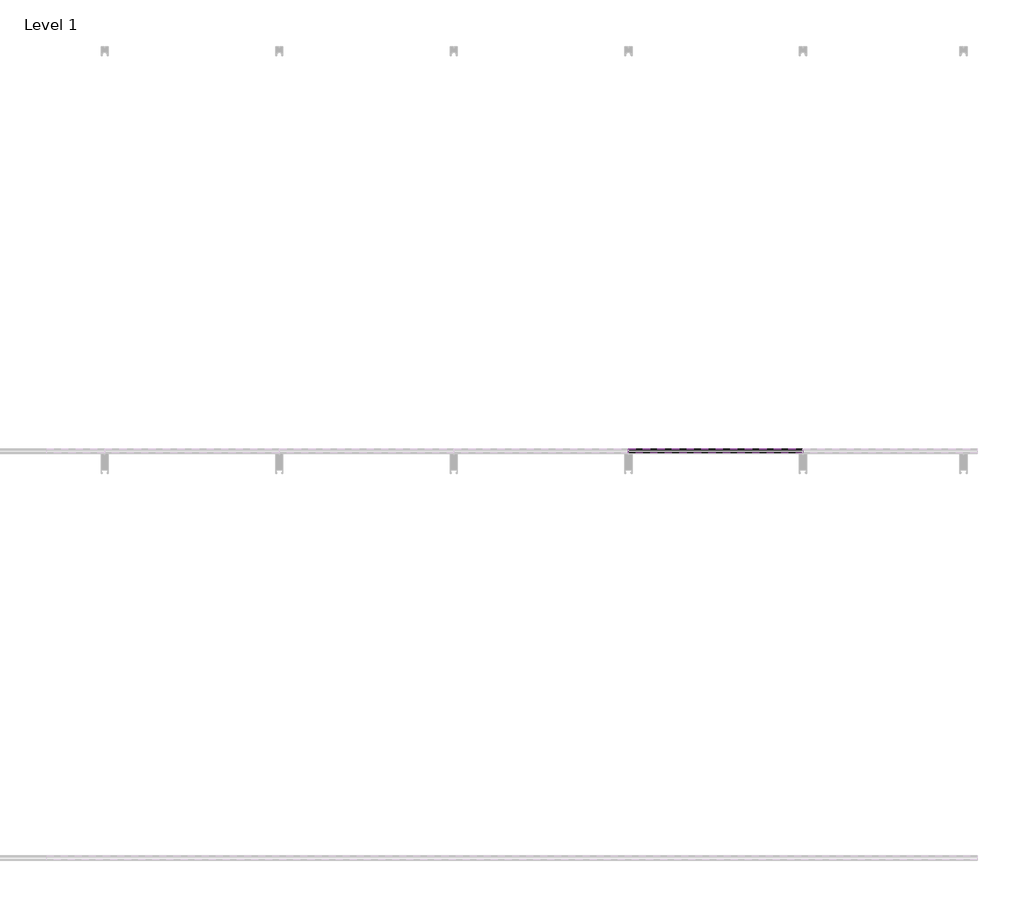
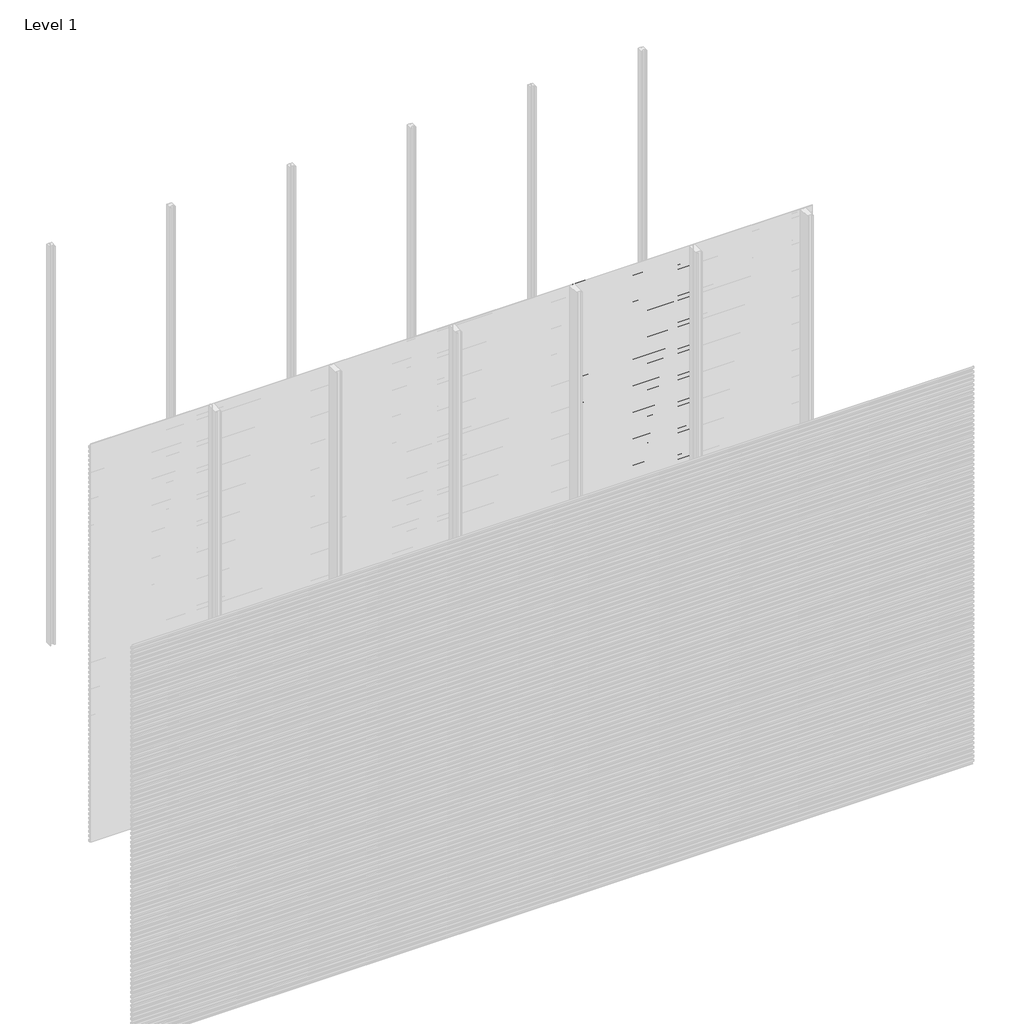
# One storey, part 67 of 96: 76 proxies.
"""IFC4 building model written with IfcOpenShell, lengths in millimetres."""

from ifc_helpers import new_model, si_unit, frame, origin, place, context, project, spatial, polyline, outline, extrude, element, save

model = new_model("IFC4")

# Units and contexts
model_context = context("Model", 3, world=origin())
ifc_project = project(units=[si_unit("LENGTHUNIT", "METRE", prefix="MILLI")], contexts=[model_context])

# Site, building, storey
site = spatial("IfcSite", under=ifc_project)
building = spatial("IfcBuilding", under=site)
storey = spatial("IfcBuildingStorey", under=building, Name="Level 1", Elevation=0.0)

# Proxies
placement = place(None, origin())
element("IfcBuildingElementProxy", 1, Name="Wall Sweeps", at=placement, inside=storey, context=model_context, shape_type="SweptSolid", body=[
    extrude(outline(polyline([(-17977.6, 107.9655033), (-17977.6, 93.6779188), (-17982.4114965, 90.9), (-17982.4114965, 92.1701706), (-17978.85, 94.2264016), (-17978.85, 107.2437382), (-17998.0, 118.3000799), (-17998.0, 133.2), (-17996.75, 133.2), (-17996.75, 119.0217609), (-17977.6, 107.9655033)])), frame((3428.5714286, 0.0, 0.0), z_axis=(1.0, 0.0, 0.0), x_axis=(0.0, 1.0, 0.0)), (0.0, 0.0, 1.0), 857.1428571),
])
element("IfcBuildingElementProxy", 2, Name="Wall Sweeps", at=placement, inside=storey, context=model_context, shape_type="SweptSolid", body=[
    extrude(outline(polyline([(-17977.6, 74.6655033), (-17977.6, 60.3779188), (-17982.4114965, 57.6), (-17982.4114965, 58.8701706), (-17978.85, 60.9264016), (-17978.85, 73.9437382), (-17998.0, 85.0000799), (-17998.0, 99.9), (-17996.75, 99.9), (-17996.75, 85.7217609), (-17977.6, 74.6655033)])), frame((3428.5714286, 0.0, 0.0), z_axis=(1.0, 0.0, 0.0), x_axis=(0.0, 1.0, 0.0)), (0.0, 0.0, 1.0), 857.1428571),
])
element("IfcBuildingElementProxy", 3, Name="Wall Sweeps", at=placement, inside=storey, context=model_context, shape_type="SweptSolid", body=[
    extrude(outline(polyline([(-17977.6, 41.3655033), (-17977.6, 27.0779188), (-17982.4114965, 24.3), (-17982.4114965, 25.5701706), (-17978.85, 27.6264016), (-17978.85, 40.6437382), (-17998.0, 51.7000799), (-17998.0, 66.6), (-17996.75, 66.6), (-17996.75, 52.4217609), (-17977.6, 41.3655033)])), frame((3428.5714286, 0.0, 0.0), z_axis=(1.0, 0.0, 0.0), x_axis=(0.0, 1.0, 0.0)), (0.0, 0.0, 1.0), 857.1428571),
])
element("IfcBuildingElementProxy", 4, Name="Wall Sweeps", at=placement, inside=storey, context=model_context, shape_type="SweptSolid", body=[
    extrude(outline(polyline([(-17977.6, 8.0655033), (-17977.6, -6.2220812), (-17982.4114965, -9.0), (-17982.4114965, -7.7298294), (-17978.85, -5.6735984), (-17978.85, 7.3437382), (-17998.0, 18.4000799), (-17998.0, 33.3), (-17996.75, 33.3), (-17996.75, 19.1217609), (-17977.6, 8.0655033)])), frame((3428.5714286, 0.0, 0.0), z_axis=(1.0, 0.0, 0.0), x_axis=(0.0, 1.0, 0.0)), (0.0, 0.0, 1.0), 857.1428571),
])
element("IfcBuildingElementProxy", 5, Name="Wall Sweeps", at=placement, inside=storey, context=model_context, shape_type="SweptSolid", body=[
    extrude(outline(polyline([(-17977.6, 2971.7655033), (-17977.6, 2957.4779188), (-17982.4114965, 2954.7), (-17982.4114965, 2955.9701706), (-17978.85, 2958.0264016), (-17978.85, 2971.0437382), (-17998.0, 2982.1000799), (-17998.0, 2997.0), (-17996.75, 2997.0), (-17996.75, 2982.8217609), (-17977.6, 2971.7655033)])), frame((4285.7142857, 0.0, 0.0), z_axis=(1.0, 0.0, 0.0), x_axis=(0.0, 1.0, 0.0)), (0.0, 0.0, 1.0), 857.1428571),
])
element("IfcBuildingElementProxy", 6, Name="Wall Sweeps", at=placement, inside=storey, context=model_context, shape_type="SweptSolid", body=[
    extrude(outline(polyline([(-17977.6, 2938.4655033), (-17977.6, 2924.1779188), (-17982.4114965, 2921.4), (-17982.4114965, 2922.6701706), (-17978.85, 2924.7264016), (-17978.85, 2937.7437382), (-17998.0, 2948.8000799), (-17998.0, 2963.7), (-17996.75, 2963.7), (-17996.75, 2949.5217609), (-17977.6, 2938.4655033)])), frame((4285.7142857, 0.0, 0.0), z_axis=(1.0, 0.0, 0.0), x_axis=(0.0, 1.0, 0.0)), (0.0, 0.0, 1.0), 857.1428571),
])
element("IfcBuildingElementProxy", 7, Name="Wall Sweeps", at=placement, inside=storey, context=model_context, shape_type="SweptSolid", body=[
    extrude(outline(polyline([(-17977.6, 2905.1655033), (-17977.6, 2890.8779188), (-17982.4114965, 2888.1), (-17982.4114965, 2889.3701706), (-17978.85, 2891.4264016), (-17978.85, 2904.4437382), (-17998.0, 2915.5000799), (-17998.0, 2930.4), (-17996.75, 2930.4), (-17996.75, 2916.2217609), (-17977.6, 2905.1655033)])), frame((4285.7142857, 0.0, 0.0), z_axis=(1.0, 0.0, 0.0), x_axis=(0.0, 1.0, 0.0)), (0.0, 0.0, 1.0), 857.1428571),
])
element("IfcBuildingElementProxy", 8, Name="Wall Sweeps", at=placement, inside=storey, context=model_context, shape_type="SweptSolid", body=[
    extrude(outline(polyline([(-17977.6, 2871.8655033), (-17977.6, 2857.5779188), (-17982.4114965, 2854.8), (-17982.4114965, 2856.0701706), (-17978.85, 2858.1264016), (-17978.85, 2871.1437382), (-17998.0, 2882.2000799), (-17998.0, 2897.1), (-17996.75, 2897.1), (-17996.75, 2882.9217609), (-17977.6, 2871.8655033)])), frame((4285.7142857, 0.0, 0.0), z_axis=(1.0, 0.0, 0.0), x_axis=(0.0, 1.0, 0.0)), (0.0, 0.0, 1.0), 857.1428571),
])
element("IfcBuildingElementProxy", 9, Name="Wall Sweeps", at=placement, inside=storey, context=model_context, shape_type="SweptSolid", body=[
    extrude(outline(polyline([(-17977.6, 2838.5655033), (-17977.6, 2824.2779188), (-17982.4114965, 2821.5), (-17982.4114965, 2822.7701706), (-17978.85, 2824.8264016), (-17978.85, 2837.8437382), (-17998.0, 2848.9000799), (-17998.0, 2863.8), (-17996.75, 2863.8), (-17996.75, 2849.6217609), (-17977.6, 2838.5655033)])), frame((4285.7142857, 0.0, 0.0), z_axis=(1.0, 0.0, 0.0), x_axis=(0.0, 1.0, 0.0)), (0.0, 0.0, 1.0), 857.1428571),
])
element("IfcBuildingElementProxy", 10, Name="Wall Sweeps", at=placement, inside=storey, context=model_context, shape_type="SweptSolid", body=[
    extrude(outline(polyline([(-17977.6, 2805.2655033), (-17977.6, 2790.9779188), (-17982.4114965, 2788.2), (-17982.4114965, 2789.4701706), (-17978.85, 2791.5264016), (-17978.85, 2804.5437382), (-17998.0, 2815.6000799), (-17998.0, 2830.5), (-17996.75, 2830.5), (-17996.75, 2816.3217609), (-17977.6, 2805.2655033)])), frame((4285.7142857, 0.0, 0.0), z_axis=(1.0, 0.0, 0.0), x_axis=(0.0, 1.0, 0.0)), (0.0, 0.0, 1.0), 857.1428571),
])
element("IfcBuildingElementProxy", 11, Name="Wall Sweeps", at=placement, inside=storey, context=model_context, shape_type="SweptSolid", body=[
    extrude(outline(polyline([(-17977.6, 2771.9655033), (-17977.6, 2757.6779188), (-17982.4114965, 2754.9), (-17982.4114965, 2756.1701706), (-17978.85, 2758.2264016), (-17978.85, 2771.2437382), (-17998.0, 2782.3000799), (-17998.0, 2797.2), (-17996.75, 2797.2), (-17996.75, 2783.0217609), (-17977.6, 2771.9655033)])), frame((4285.7142857, 0.0, 0.0), z_axis=(1.0, 0.0, 0.0), x_axis=(0.0, 1.0, 0.0)), (0.0, 0.0, 1.0), 857.1428571),
])
element("IfcBuildingElementProxy", 12, Name="Wall Sweeps", at=placement, inside=storey, context=model_context, shape_type="SweptSolid", body=[
    extrude(outline(polyline([(-17977.6, 2738.6655033), (-17977.6, 2724.3779188), (-17982.4114965, 2721.6), (-17982.4114965, 2722.8701706), (-17978.85, 2724.9264016), (-17978.85, 2737.9437382), (-17998.0, 2749.0000799), (-17998.0, 2763.9), (-17996.75, 2763.9), (-17996.75, 2749.7217609), (-17977.6, 2738.6655033)])), frame((4285.7142857, 0.0, 0.0), z_axis=(1.0, 0.0, 0.0), x_axis=(0.0, 1.0, 0.0)), (0.0, 0.0, 1.0), 857.1428571),
])
element("IfcBuildingElementProxy", 13, Name="Wall Sweeps", at=placement, inside=storey, context=model_context, shape_type="SweptSolid", body=[
    extrude(outline(polyline([(-17977.6, 2705.3655033), (-17977.6, 2691.0779188), (-17982.4114965, 2688.3), (-17982.4114965, 2689.5701706), (-17978.85, 2691.6264016), (-17978.85, 2704.6437382), (-17998.0, 2715.7000799), (-17998.0, 2730.6), (-17996.75, 2730.6), (-17996.75, 2716.4217609), (-17977.6, 2705.3655033)])), frame((4285.7142857, 0.0, 0.0), z_axis=(1.0, 0.0, 0.0), x_axis=(0.0, 1.0, 0.0)), (0.0, 0.0, 1.0), 857.1428571),
])
element("IfcBuildingElementProxy", 14, Name="Wall Sweeps", at=placement, inside=storey, context=model_context, shape_type="SweptSolid", body=[
    extrude(outline(polyline([(-17977.6, 2672.0655033), (-17977.6, 2657.7779188), (-17982.4114965, 2655.0), (-17982.4114965, 2656.2701706), (-17978.85, 2658.3264016), (-17978.85, 2671.3437382), (-17998.0, 2682.4000799), (-17998.0, 2697.3), (-17996.75, 2697.3), (-17996.75, 2683.1217609), (-17977.6, 2672.0655033)])), frame((4285.7142857, 0.0, 0.0), z_axis=(1.0, 0.0, 0.0), x_axis=(0.0, 1.0, 0.0)), (0.0, 0.0, 1.0), 857.1428571),
])
element("IfcBuildingElementProxy", 15, Name="Wall Sweeps", at=placement, inside=storey, context=model_context, shape_type="SweptSolid", body=[
    extrude(outline(polyline([(-17977.6, 2638.7655033), (-17977.6, 2624.4779188), (-17982.4114965, 2621.7), (-17982.4114965, 2622.9701706), (-17978.85, 2625.0264016), (-17978.85, 2638.0437382), (-17998.0, 2649.1000799), (-17998.0, 2664.0), (-17996.75, 2664.0), (-17996.75, 2649.8217609), (-17977.6, 2638.7655033)])), frame((4285.7142857, 0.0, 0.0), z_axis=(1.0, 0.0, 0.0), x_axis=(0.0, 1.0, 0.0)), (0.0, 0.0, 1.0), 857.1428571),
])
element("IfcBuildingElementProxy", 16, Name="Wall Sweeps", at=placement, inside=storey, context=model_context, shape_type="SweptSolid", body=[
    extrude(outline(polyline([(-17977.6, 2605.4655033), (-17977.6, 2591.1779188), (-17982.4114965, 2588.4), (-17982.4114965, 2589.6701706), (-17978.85, 2591.7264016), (-17978.85, 2604.7437382), (-17998.0, 2615.8000799), (-17998.0, 2630.7), (-17996.75, 2630.7), (-17996.75, 2616.5217609), (-17977.6, 2605.4655033)])), frame((4285.7142857, 0.0, 0.0), z_axis=(1.0, 0.0, 0.0), x_axis=(0.0, 1.0, 0.0)), (0.0, 0.0, 1.0), 857.1428571),
])
element("IfcBuildingElementProxy", 17, Name="Wall Sweeps", at=placement, inside=storey, context=model_context, shape_type="SweptSolid", body=[
    extrude(outline(polyline([(-17977.6, 2572.1655033), (-17977.6, 2557.8779188), (-17982.4114965, 2555.1), (-17982.4114965, 2556.3701706), (-17978.85, 2558.4264016), (-17978.85, 2571.4437382), (-17998.0, 2582.5000799), (-17998.0, 2597.4), (-17996.75, 2597.4), (-17996.75, 2583.2217609), (-17977.6, 2572.1655033)])), frame((4285.7142857, 0.0, 0.0), z_axis=(1.0, 0.0, 0.0), x_axis=(0.0, 1.0, 0.0)), (0.0, 0.0, 1.0), 857.1428571),
])
element("IfcBuildingElementProxy", 18, Name="Wall Sweeps", at=placement, inside=storey, context=model_context, shape_type="SweptSolid", body=[
    extrude(outline(polyline([(-17977.6, 2538.8655033), (-17977.6, 2524.5779188), (-17982.4114965, 2521.8), (-17982.4114965, 2523.0701706), (-17978.85, 2525.1264016), (-17978.85, 2538.1437382), (-17998.0, 2549.2000799), (-17998.0, 2564.1), (-17996.75, 2564.1), (-17996.75, 2549.9217609), (-17977.6, 2538.8655033)])), frame((4285.7142857, 0.0, 0.0), z_axis=(1.0, 0.0, 0.0), x_axis=(0.0, 1.0, 0.0)), (0.0, 0.0, 1.0), 857.1428571),
])
element("IfcBuildingElementProxy", 19, Name="Wall Sweeps", at=placement, inside=storey, context=model_context, shape_type="SweptSolid", body=[
    extrude(outline(polyline([(-17977.6, 2505.5655033), (-17977.6, 2491.2779188), (-17982.4114965, 2488.5), (-17982.4114965, 2489.7701706), (-17978.85, 2491.8264016), (-17978.85, 2504.8437382), (-17998.0, 2515.9000799), (-17998.0, 2530.8), (-17996.75, 2530.8), (-17996.75, 2516.6217609), (-17977.6, 2505.5655033)])), frame((4285.7142857, 0.0, 0.0), z_axis=(1.0, 0.0, 0.0), x_axis=(0.0, 1.0, 0.0)), (0.0, 0.0, 1.0), 857.1428571),
])
element("IfcBuildingElementProxy", 20, Name="Wall Sweeps", at=placement, inside=storey, context=model_context, shape_type="SweptSolid", body=[
    extrude(outline(polyline([(-17977.6, 2472.2655033), (-17977.6, 2457.9779188), (-17982.4114965, 2455.2), (-17982.4114965, 2456.4701706), (-17978.85, 2458.5264016), (-17978.85, 2471.5437382), (-17998.0, 2482.6000799), (-17998.0, 2497.5), (-17996.75, 2497.5), (-17996.75, 2483.3217609), (-17977.6, 2472.2655033)])), frame((4285.7142857, 0.0, 0.0), z_axis=(1.0, 0.0, 0.0), x_axis=(0.0, 1.0, 0.0)), (0.0, 0.0, 1.0), 857.1428571),
])
element("IfcBuildingElementProxy", 21, Name="Wall Sweeps", at=placement, inside=storey, context=model_context, shape_type="SweptSolid", body=[
    extrude(outline(polyline([(-17977.6, 2438.9655033), (-17977.6, 2424.6779188), (-17982.4114965, 2421.9), (-17982.4114965, 2423.1701706), (-17978.85, 2425.2264016), (-17978.85, 2438.2437382), (-17998.0, 2449.3000799), (-17998.0, 2464.2), (-17996.75, 2464.2), (-17996.75, 2450.0217609), (-17977.6, 2438.9655033)])), frame((4285.7142857, 0.0, 0.0), z_axis=(1.0, 0.0, 0.0), x_axis=(0.0, 1.0, 0.0)), (0.0, 0.0, 1.0), 857.1428571),
])
element("IfcBuildingElementProxy", 22, Name="Wall Sweeps", at=placement, inside=storey, context=model_context, shape_type="SweptSolid", body=[
    extrude(outline(polyline([(-17977.6, 2405.6655033), (-17977.6, 2391.3779188), (-17982.4114965, 2388.6), (-17982.4114965, 2389.8701706), (-17978.85, 2391.9264016), (-17978.85, 2404.9437382), (-17998.0, 2416.0000799), (-17998.0, 2430.9), (-17996.75, 2430.9), (-17996.75, 2416.7217609), (-17977.6, 2405.6655033)])), frame((4285.7142857, 0.0, 0.0), z_axis=(1.0, 0.0, 0.0), x_axis=(0.0, 1.0, 0.0)), (0.0, 0.0, 1.0), 857.1428571),
])
element("IfcBuildingElementProxy", 23, Name="Wall Sweeps", at=placement, inside=storey, context=model_context, shape_type="SweptSolid", body=[
    extrude(outline(polyline([(-17977.6, 2372.3655033), (-17977.6, 2358.0779188), (-17982.4114965, 2355.3), (-17982.4114965, 2356.5701706), (-17978.85, 2358.6264016), (-17978.85, 2371.6437382), (-17998.0, 2382.7000799), (-17998.0, 2397.6), (-17996.75, 2397.6), (-17996.75, 2383.4217609), (-17977.6, 2372.3655033)])), frame((4285.7142857, 0.0, 0.0), z_axis=(1.0, 0.0, 0.0), x_axis=(0.0, 1.0, 0.0)), (0.0, 0.0, 1.0), 857.1428571),
])
element("IfcBuildingElementProxy", 24, Name="Wall Sweeps", at=placement, inside=storey, context=model_context, shape_type="SweptSolid", body=[
    extrude(outline(polyline([(-17977.6, 2339.0655033), (-17977.6, 2324.7779188), (-17982.4114965, 2322.0), (-17982.4114965, 2323.2701706), (-17978.85, 2325.3264016), (-17978.85, 2338.3437382), (-17998.0, 2349.4000799), (-17998.0, 2364.3), (-17996.75, 2364.3), (-17996.75, 2350.1217609), (-17977.6, 2339.0655033)])), frame((4285.7142857, 0.0, 0.0), z_axis=(1.0, 0.0, 0.0), x_axis=(0.0, 1.0, 0.0)), (0.0, 0.0, 1.0), 857.1428571),
])
element("IfcBuildingElementProxy", 25, Name="Wall Sweeps", at=placement, inside=storey, context=model_context, shape_type="SweptSolid", body=[
    extrude(outline(polyline([(-17977.6, 2305.7655033), (-17977.6, 2291.4779188), (-17982.4114965, 2288.7), (-17982.4114965, 2289.9701706), (-17978.85, 2292.0264016), (-17978.85, 2305.0437382), (-17998.0, 2316.1000799), (-17998.0, 2331.0), (-17996.75, 2331.0), (-17996.75, 2316.8217609), (-17977.6, 2305.7655033)])), frame((4285.7142857, 0.0, 0.0), z_axis=(1.0, 0.0, 0.0), x_axis=(0.0, 1.0, 0.0)), (0.0, 0.0, 1.0), 857.1428571),
])
element("IfcBuildingElementProxy", 26, Name="Wall Sweeps", at=placement, inside=storey, context=model_context, shape_type="SweptSolid", body=[
    extrude(outline(polyline([(-17977.6, 2272.4655033), (-17977.6, 2258.1779188), (-17982.4114965, 2255.4), (-17982.4114965, 2256.6701706), (-17978.85, 2258.7264016), (-17978.85, 2271.7437382), (-17998.0, 2282.8000799), (-17998.0, 2297.7), (-17996.75, 2297.7), (-17996.75, 2283.5217609), (-17977.6, 2272.4655033)])), frame((4285.7142857, 0.0, 0.0), z_axis=(1.0, 0.0, 0.0), x_axis=(0.0, 1.0, 0.0)), (0.0, 0.0, 1.0), 857.1428571),
])
element("IfcBuildingElementProxy", 27, Name="Wall Sweeps", at=placement, inside=storey, context=model_context, shape_type="SweptSolid", body=[
    extrude(outline(polyline([(-17977.6, 2239.1655033), (-17977.6, 2224.8779188), (-17982.4114965, 2222.1), (-17982.4114965, 2223.3701706), (-17978.85, 2225.4264016), (-17978.85, 2238.4437382), (-17998.0, 2249.5000799), (-17998.0, 2264.4), (-17996.75, 2264.4), (-17996.75, 2250.2217609), (-17977.6, 2239.1655033)])), frame((4285.7142857, 0.0, 0.0), z_axis=(1.0, 0.0, 0.0), x_axis=(0.0, 1.0, 0.0)), (0.0, 0.0, 1.0), 857.1428571),
])
element("IfcBuildingElementProxy", 28, Name="Wall Sweeps", at=placement, inside=storey, context=model_context, shape_type="SweptSolid", body=[
    extrude(outline(polyline([(-17977.6, 2205.8655033), (-17977.6, 2191.5779188), (-17982.4114965, 2188.8), (-17982.4114965, 2190.0701706), (-17978.85, 2192.1264016), (-17978.85, 2205.1437382), (-17998.0, 2216.2000799), (-17998.0, 2231.1), (-17996.75, 2231.1), (-17996.75, 2216.9217609), (-17977.6, 2205.8655033)])), frame((4285.7142857, 0.0, 0.0), z_axis=(1.0, 0.0, 0.0), x_axis=(0.0, 1.0, 0.0)), (0.0, 0.0, 1.0), 857.1428571),
])
element("IfcBuildingElementProxy", 29, Name="Wall Sweeps", at=placement, inside=storey, context=model_context, shape_type="SweptSolid", body=[
    extrude(outline(polyline([(-17977.6, 2172.5655033), (-17977.6, 2158.2779188), (-17982.4114965, 2155.5), (-17982.4114965, 2156.7701706), (-17978.85, 2158.8264016), (-17978.85, 2171.8437382), (-17998.0, 2182.9000799), (-17998.0, 2197.8), (-17996.75, 2197.8), (-17996.75, 2183.6217609), (-17977.6, 2172.5655033)])), frame((4285.7142857, 0.0, 0.0), z_axis=(1.0, 0.0, 0.0), x_axis=(0.0, 1.0, 0.0)), (0.0, 0.0, 1.0), 857.1428571),
])
element("IfcBuildingElementProxy", 30, Name="Wall Sweeps", at=placement, inside=storey, context=model_context, shape_type="SweptSolid", body=[
    extrude(outline(polyline([(-17977.6, 2139.2655033), (-17977.6, 2124.9779188), (-17982.4114965, 2122.2), (-17982.4114965, 2123.4701706), (-17978.85, 2125.5264016), (-17978.85, 2138.5437382), (-17998.0, 2149.6000799), (-17998.0, 2164.5), (-17996.75, 2164.5), (-17996.75, 2150.3217609), (-17977.6, 2139.2655033)])), frame((4285.7142857, 0.0, 0.0), z_axis=(1.0, 0.0, 0.0), x_axis=(0.0, 1.0, 0.0)), (0.0, 0.0, 1.0), 857.1428571),
])
element("IfcBuildingElementProxy", 31, Name="Wall Sweeps", at=placement, inside=storey, context=model_context, shape_type="SweptSolid", body=[
    extrude(outline(polyline([(-17977.6, 2105.9655033), (-17977.6, 2091.6779188), (-17982.4114965, 2088.9), (-17982.4114965, 2090.1701706), (-17978.85, 2092.2264016), (-17978.85, 2105.2437382), (-17998.0, 2116.3000799), (-17998.0, 2131.2), (-17996.75, 2131.2), (-17996.75, 2117.0217609), (-17977.6, 2105.9655033)])), frame((4285.7142857, 0.0, 0.0), z_axis=(1.0, 0.0, 0.0), x_axis=(0.0, 1.0, 0.0)), (0.0, 0.0, 1.0), 857.1428571),
])
element("IfcBuildingElementProxy", 32, Name="Wall Sweeps", at=placement, inside=storey, context=model_context, shape_type="SweptSolid", body=[
    extrude(outline(polyline([(-17977.6, 2072.6655033), (-17977.6, 2058.3779188), (-17982.4114965, 2055.6), (-17982.4114965, 2056.8701706), (-17978.85, 2058.9264016), (-17978.85, 2071.9437382), (-17998.0, 2083.0000799), (-17998.0, 2097.9), (-17996.75, 2097.9), (-17996.75, 2083.7217609), (-17977.6, 2072.6655033)])), frame((4285.7142857, 0.0, 0.0), z_axis=(1.0, 0.0, 0.0), x_axis=(0.0, 1.0, 0.0)), (0.0, 0.0, 1.0), 857.1428571),
])
element("IfcBuildingElementProxy", 33, Name="Wall Sweeps", at=placement, inside=storey, context=model_context, shape_type="SweptSolid", body=[
    extrude(outline(polyline([(-17977.6, 2039.3655033), (-17977.6, 2025.0779188), (-17982.4114965, 2022.3), (-17982.4114965, 2023.5701706), (-17978.85, 2025.6264016), (-17978.85, 2038.6437382), (-17998.0, 2049.7000799), (-17998.0, 2064.6), (-17996.75, 2064.6), (-17996.75, 2050.4217609), (-17977.6, 2039.3655033)])), frame((4285.7142857, 0.0, 0.0), z_axis=(1.0, 0.0, 0.0), x_axis=(0.0, 1.0, 0.0)), (0.0, 0.0, 1.0), 857.1428571),
])
element("IfcBuildingElementProxy", 34, Name="Wall Sweeps", at=placement, inside=storey, context=model_context, shape_type="SweptSolid", body=[
    extrude(outline(polyline([(-17977.6, 2006.0655033), (-17977.6, 1991.7779188), (-17982.4114965, 1989.0), (-17982.4114965, 1990.2701706), (-17978.85, 1992.3264016), (-17978.85, 2005.3437382), (-17998.0, 2016.4000799), (-17998.0, 2031.3), (-17996.75, 2031.3), (-17996.75, 2017.1217609), (-17977.6, 2006.0655033)])), frame((4285.7142857, 0.0, 0.0), z_axis=(1.0, 0.0, 0.0), x_axis=(0.0, 1.0, 0.0)), (0.0, 0.0, 1.0), 857.1428571),
])
element("IfcBuildingElementProxy", 35, Name="Wall Sweeps", at=placement, inside=storey, context=model_context, shape_type="SweptSolid", body=[
    extrude(outline(polyline([(-17977.6, 1972.7655033), (-17977.6, 1958.4779188), (-17982.4114965, 1955.7), (-17982.4114965, 1956.9701706), (-17978.85, 1959.0264016), (-17978.85, 1972.0437382), (-17998.0, 1983.1000799), (-17998.0, 1998.0), (-17996.75, 1998.0), (-17996.75, 1983.8217609), (-17977.6, 1972.7655033)])), frame((4285.7142857, 0.0, 0.0), z_axis=(1.0, 0.0, 0.0), x_axis=(0.0, 1.0, 0.0)), (0.0, 0.0, 1.0), 857.1428571),
])
element("IfcBuildingElementProxy", 36, Name="Wall Sweeps", at=placement, inside=storey, context=model_context, shape_type="SweptSolid", body=[
    extrude(outline(polyline([(-17977.6, 1939.4655033), (-17977.6, 1925.1779188), (-17982.4114965, 1922.4), (-17982.4114965, 1923.6701706), (-17978.85, 1925.7264016), (-17978.85, 1938.7437382), (-17998.0, 1949.8000799), (-17998.0, 1964.7), (-17996.75, 1964.7), (-17996.75, 1950.5217609), (-17977.6, 1939.4655033)])), frame((4285.7142857, 0.0, 0.0), z_axis=(1.0, 0.0, 0.0), x_axis=(0.0, 1.0, 0.0)), (0.0, 0.0, 1.0), 857.1428571),
])
element("IfcBuildingElementProxy", 37, Name="Wall Sweeps", at=placement, inside=storey, context=model_context, shape_type="SweptSolid", body=[
    extrude(outline(polyline([(-17977.6, 1906.1655033), (-17977.6, 1891.8779188), (-17982.4114965, 1889.1), (-17982.4114965, 1890.3701706), (-17978.85, 1892.4264016), (-17978.85, 1905.4437382), (-17998.0, 1916.5000799), (-17998.0, 1931.4), (-17996.75, 1931.4), (-17996.75, 1917.2217609), (-17977.6, 1906.1655033)])), frame((4285.7142857, 0.0, 0.0), z_axis=(1.0, 0.0, 0.0), x_axis=(0.0, 1.0, 0.0)), (0.0, 0.0, 1.0), 857.1428571),
])
element("IfcBuildingElementProxy", 38, Name="Wall Sweeps", at=placement, inside=storey, context=model_context, shape_type="SweptSolid", body=[
    extrude(outline(polyline([(-17977.6, 1872.8655033), (-17977.6, 1858.5779188), (-17982.4114965, 1855.8), (-17982.4114965, 1857.0701706), (-17978.85, 1859.1264016), (-17978.85, 1872.1437382), (-17998.0, 1883.2000799), (-17998.0, 1898.1), (-17996.75, 1898.1), (-17996.75, 1883.9217609), (-17977.6, 1872.8655033)])), frame((4285.7142857, 0.0, 0.0), z_axis=(1.0, 0.0, 0.0), x_axis=(0.0, 1.0, 0.0)), (0.0, 0.0, 1.0), 857.1428571),
])
element("IfcBuildingElementProxy", 39, Name="Wall Sweeps", at=placement, inside=storey, context=model_context, shape_type="SweptSolid", body=[
    extrude(outline(polyline([(-17977.6, 1839.5655033), (-17977.6, 1825.2779188), (-17982.4114965, 1822.5), (-17982.4114965, 1823.7701706), (-17978.85, 1825.8264016), (-17978.85, 1838.8437382), (-17998.0, 1849.9000799), (-17998.0, 1864.8), (-17996.75, 1864.8), (-17996.75, 1850.6217609), (-17977.6, 1839.5655033)])), frame((4285.7142857, 0.0, 0.0), z_axis=(1.0, 0.0, 0.0), x_axis=(0.0, 1.0, 0.0)), (0.0, 0.0, 1.0), 857.1428571),
])
element("IfcBuildingElementProxy", 40, Name="Wall Sweeps", at=placement, inside=storey, context=model_context, shape_type="SweptSolid", body=[
    extrude(outline(polyline([(-17977.6, 1806.2655033), (-17977.6, 1791.9779188), (-17982.4114965, 1789.2), (-17982.4114965, 1790.4701706), (-17978.85, 1792.5264016), (-17978.85, 1805.5437382), (-17998.0, 1816.6000799), (-17998.0, 1831.5), (-17996.75, 1831.5), (-17996.75, 1817.3217609), (-17977.6, 1806.2655033)])), frame((4285.7142857, 0.0, 0.0), z_axis=(1.0, 0.0, 0.0), x_axis=(0.0, 1.0, 0.0)), (0.0, 0.0, 1.0), 857.1428571),
])
element("IfcBuildingElementProxy", 41, Name="Wall Sweeps", at=placement, inside=storey, context=model_context, shape_type="SweptSolid", body=[
    extrude(outline(polyline([(-17977.6, 1772.9655033), (-17977.6, 1758.6779188), (-17982.4114965, 1755.9), (-17982.4114965, 1757.1701706), (-17978.85, 1759.2264016), (-17978.85, 1772.2437382), (-17998.0, 1783.3000799), (-17998.0, 1798.2), (-17996.75, 1798.2), (-17996.75, 1784.0217609), (-17977.6, 1772.9655033)])), frame((4285.7142857, 0.0, 0.0), z_axis=(1.0, 0.0, 0.0), x_axis=(0.0, 1.0, 0.0)), (0.0, 0.0, 1.0), 857.1428571),
])
element("IfcBuildingElementProxy", 42, Name="Wall Sweeps", at=placement, inside=storey, context=model_context, shape_type="SweptSolid", body=[
    extrude(outline(polyline([(-17977.6, 1739.6655033), (-17977.6, 1725.3779188), (-17982.4114965, 1722.6), (-17982.4114965, 1723.8701706), (-17978.85, 1725.9264016), (-17978.85, 1738.9437382), (-17998.0, 1750.0000799), (-17998.0, 1764.9), (-17996.75, 1764.9), (-17996.75, 1750.7217609), (-17977.6, 1739.6655033)])), frame((4285.7142857, 0.0, 0.0), z_axis=(1.0, 0.0, 0.0), x_axis=(0.0, 1.0, 0.0)), (0.0, 0.0, 1.0), 857.1428571),
])
element("IfcBuildingElementProxy", 43, Name="Wall Sweeps", at=placement, inside=storey, context=model_context, shape_type="SweptSolid", body=[
    extrude(outline(polyline([(-17977.6, 1706.3655033), (-17977.6, 1692.0779188), (-17982.4114965, 1689.3), (-17982.4114965, 1690.5701706), (-17978.85, 1692.6264016), (-17978.85, 1705.6437382), (-17998.0, 1716.7000799), (-17998.0, 1731.6), (-17996.75, 1731.6), (-17996.75, 1717.4217609), (-17977.6, 1706.3655033)])), frame((4285.7142857, 0.0, 0.0), z_axis=(1.0, 0.0, 0.0), x_axis=(0.0, 1.0, 0.0)), (0.0, 0.0, 1.0), 857.1428571),
])
element("IfcBuildingElementProxy", 44, Name="Wall Sweeps", at=placement, inside=storey, context=model_context, shape_type="SweptSolid", body=[
    extrude(outline(polyline([(-17977.6, 1673.0655033), (-17977.6, 1658.7779188), (-17982.4114965, 1656.0), (-17982.4114965, 1657.2701706), (-17978.85, 1659.3264016), (-17978.85, 1672.3437382), (-17998.0, 1683.4000799), (-17998.0, 1698.3), (-17996.75, 1698.3), (-17996.75, 1684.1217609), (-17977.6, 1673.0655033)])), frame((4285.7142857, 0.0, 0.0), z_axis=(1.0, 0.0, 0.0), x_axis=(0.0, 1.0, 0.0)), (0.0, 0.0, 1.0), 857.1428571),
])
element("IfcBuildingElementProxy", 45, Name="Wall Sweeps", at=placement, inside=storey, context=model_context, shape_type="SweptSolid", body=[
    extrude(outline(polyline([(-17977.6, 1639.7655033), (-17977.6, 1625.4779188), (-17982.4114965, 1622.7), (-17982.4114965, 1623.9701706), (-17978.85, 1626.0264016), (-17978.85, 1639.0437382), (-17998.0, 1650.1000799), (-17998.0, 1665.0), (-17996.75, 1665.0), (-17996.75, 1650.8217609), (-17977.6, 1639.7655033)])), frame((4285.7142857, 0.0, 0.0), z_axis=(1.0, 0.0, 0.0), x_axis=(0.0, 1.0, 0.0)), (0.0, 0.0, 1.0), 857.1428571),
])
element("IfcBuildingElementProxy", 46, Name="Wall Sweeps", at=placement, inside=storey, context=model_context, shape_type="SweptSolid", body=[
    extrude(outline(polyline([(-17977.6, 1606.4655033), (-17977.6, 1592.1779188), (-17982.4114965, 1589.4), (-17982.4114965, 1590.6701706), (-17978.85, 1592.7264016), (-17978.85, 1605.7437382), (-17998.0, 1616.8000799), (-17998.0, 1631.7), (-17996.75, 1631.7), (-17996.75, 1617.5217609), (-17977.6, 1606.4655033)])), frame((4285.7142857, 0.0, 0.0), z_axis=(1.0, 0.0, 0.0), x_axis=(0.0, 1.0, 0.0)), (0.0, 0.0, 1.0), 857.1428571),
])
element("IfcBuildingElementProxy", 47, Name="Wall Sweeps", at=placement, inside=storey, context=model_context, shape_type="SweptSolid", body=[
    extrude(outline(polyline([(-17977.6, 1573.1655033), (-17977.6, 1558.8779188), (-17982.4114965, 1556.1), (-17982.4114965, 1557.3701706), (-17978.85, 1559.4264016), (-17978.85, 1572.4437382), (-17998.0, 1583.5000799), (-17998.0, 1598.4), (-17996.75, 1598.4), (-17996.75, 1584.2217609), (-17977.6, 1573.1655033)])), frame((4285.7142857, 0.0, 0.0), z_axis=(1.0, 0.0, 0.0), x_axis=(0.0, 1.0, 0.0)), (0.0, 0.0, 1.0), 857.1428571),
])
element("IfcBuildingElementProxy", 48, Name="Wall Sweeps", at=placement, inside=storey, context=model_context, shape_type="SweptSolid", body=[
    extrude(outline(polyline([(-17977.6, 1539.8655033), (-17977.6, 1525.5779188), (-17982.4114965, 1522.8), (-17982.4114965, 1524.0701706), (-17978.85, 1526.1264016), (-17978.85, 1539.1437382), (-17998.0, 1550.2000799), (-17998.0, 1565.1), (-17996.75, 1565.1), (-17996.75, 1550.9217609), (-17977.6, 1539.8655033)])), frame((4285.7142857, 0.0, 0.0), z_axis=(1.0, 0.0, 0.0), x_axis=(0.0, 1.0, 0.0)), (0.0, 0.0, 1.0), 857.1428571),
])
element("IfcBuildingElementProxy", 49, Name="Wall Sweeps", at=placement, inside=storey, context=model_context, shape_type="SweptSolid", body=[
    extrude(outline(polyline([(-17977.6, 1506.5655033), (-17977.6, 1492.2779188), (-17982.4114965, 1489.5), (-17982.4114965, 1490.7701706), (-17978.85, 1492.8264016), (-17978.85, 1505.8437382), (-17998.0, 1516.9000799), (-17998.0, 1531.8), (-17996.75, 1531.8), (-17996.75, 1517.6217609), (-17977.6, 1506.5655033)])), frame((4285.7142857, 0.0, 0.0), z_axis=(1.0, 0.0, 0.0), x_axis=(0.0, 1.0, 0.0)), (0.0, 0.0, 1.0), 857.1428571),
])
element("IfcBuildingElementProxy", 50, Name="Wall Sweeps", at=placement, inside=storey, context=model_context, shape_type="SweptSolid", body=[
    extrude(outline(polyline([(-17977.6, 1473.2655033), (-17977.6, 1458.9779188), (-17982.4114965, 1456.2), (-17982.4114965, 1457.4701706), (-17978.85, 1459.5264016), (-17978.85, 1472.5437382), (-17998.0, 1483.6000799), (-17998.0, 1498.5), (-17996.75, 1498.5), (-17996.75, 1484.3217609), (-17977.6, 1473.2655033)])), frame((4285.7142857, 0.0, 0.0), z_axis=(1.0, 0.0, 0.0), x_axis=(0.0, 1.0, 0.0)), (0.0, 0.0, 1.0), 857.1428571),
])
element("IfcBuildingElementProxy", 51, Name="Wall Sweeps", at=placement, inside=storey, context=model_context, shape_type="SweptSolid", body=[
    extrude(outline(polyline([(-17977.6, 1439.9655033), (-17977.6, 1425.6779188), (-17982.4114965, 1422.9), (-17982.4114965, 1424.1701706), (-17978.85, 1426.2264016), (-17978.85, 1439.2437382), (-17998.0, 1450.3000799), (-17998.0, 1465.2), (-17996.75, 1465.2), (-17996.75, 1451.0217609), (-17977.6, 1439.9655033)])), frame((4285.7142857, 0.0, 0.0), z_axis=(1.0, 0.0, 0.0), x_axis=(0.0, 1.0, 0.0)), (0.0, 0.0, 1.0), 857.1428571),
])
element("IfcBuildingElementProxy", 52, Name="Wall Sweeps", at=placement, inside=storey, context=model_context, shape_type="SweptSolid", body=[
    extrude(outline(polyline([(-17977.6, 1406.6655033), (-17977.6, 1392.3779188), (-17982.4114965, 1389.6), (-17982.4114965, 1390.8701706), (-17978.85, 1392.9264016), (-17978.85, 1405.9437382), (-17998.0, 1417.0000799), (-17998.0, 1431.9), (-17996.75, 1431.9), (-17996.75, 1417.7217609), (-17977.6, 1406.6655033)])), frame((4285.7142857, 0.0, 0.0), z_axis=(1.0, 0.0, 0.0), x_axis=(0.0, 1.0, 0.0)), (0.0, 0.0, 1.0), 857.1428571),
])
element("IfcBuildingElementProxy", 53, Name="Wall Sweeps", at=placement, inside=storey, context=model_context, shape_type="SweptSolid", body=[
    extrude(outline(polyline([(-17977.6, 1373.3655033), (-17977.6, 1359.0779188), (-17982.4114965, 1356.3), (-17982.4114965, 1357.5701706), (-17978.85, 1359.6264016), (-17978.85, 1372.6437382), (-17998.0, 1383.7000799), (-17998.0, 1398.6), (-17996.75, 1398.6), (-17996.75, 1384.4217609), (-17977.6, 1373.3655033)])), frame((4285.7142857, 0.0, 0.0), z_axis=(1.0, 0.0, 0.0), x_axis=(0.0, 1.0, 0.0)), (0.0, 0.0, 1.0), 857.1428571),
])
element("IfcBuildingElementProxy", 54, Name="Wall Sweeps", at=placement, inside=storey, context=model_context, shape_type="SweptSolid", body=[
    extrude(outline(polyline([(-17977.6, 1340.0655033), (-17977.6, 1325.7779188), (-17982.4114965, 1323.0), (-17982.4114965, 1324.2701706), (-17978.85, 1326.3264016), (-17978.85, 1339.3437382), (-17998.0, 1350.4000799), (-17998.0, 1365.3), (-17996.75, 1365.3), (-17996.75, 1351.1217609), (-17977.6, 1340.0655033)])), frame((4285.7142857, 0.0, 0.0), z_axis=(1.0, 0.0, 0.0), x_axis=(0.0, 1.0, 0.0)), (0.0, 0.0, 1.0), 857.1428571),
])
element("IfcBuildingElementProxy", 55, Name="Wall Sweeps", at=placement, inside=storey, context=model_context, shape_type="SweptSolid", body=[
    extrude(outline(polyline([(-17977.6, 1306.7655033), (-17977.6, 1292.4779188), (-17982.4114965, 1289.7), (-17982.4114965, 1290.9701706), (-17978.85, 1293.0264016), (-17978.85, 1306.0437382), (-17998.0, 1317.1000799), (-17998.0, 1332.0), (-17996.75, 1332.0), (-17996.75, 1317.8217609), (-17977.6, 1306.7655033)])), frame((4285.7142857, 0.0, 0.0), z_axis=(1.0, 0.0, 0.0), x_axis=(0.0, 1.0, 0.0)), (0.0, 0.0, 1.0), 857.1428571),
])
element("IfcBuildingElementProxy", 56, Name="Wall Sweeps", at=placement, inside=storey, context=model_context, shape_type="SweptSolid", body=[
    extrude(outline(polyline([(-17977.6, 1273.4655033), (-17977.6, 1259.1779188), (-17982.4114965, 1256.4), (-17982.4114965, 1257.6701706), (-17978.85, 1259.7264016), (-17978.85, 1272.7437382), (-17998.0, 1283.8000799), (-17998.0, 1298.7), (-17996.75, 1298.7), (-17996.75, 1284.5217609), (-17977.6, 1273.4655033)])), frame((4285.7142857, 0.0, 0.0), z_axis=(1.0, 0.0, 0.0), x_axis=(0.0, 1.0, 0.0)), (0.0, 0.0, 1.0), 857.1428571),
])
element("IfcBuildingElementProxy", 57, Name="Wall Sweeps", at=placement, inside=storey, context=model_context, shape_type="SweptSolid", body=[
    extrude(outline(polyline([(-17977.6, 1240.1655033), (-17977.6, 1225.8779188), (-17982.4114965, 1223.1), (-17982.4114965, 1224.3701706), (-17978.85, 1226.4264016), (-17978.85, 1239.4437382), (-17998.0, 1250.5000799), (-17998.0, 1265.4), (-17996.75, 1265.4), (-17996.75, 1251.2217609), (-17977.6, 1240.1655033)])), frame((4285.7142857, 0.0, 0.0), z_axis=(1.0, 0.0, 0.0), x_axis=(0.0, 1.0, 0.0)), (0.0, 0.0, 1.0), 857.1428571),
])
element("IfcBuildingElementProxy", 58, Name="Wall Sweeps", at=placement, inside=storey, context=model_context, shape_type="SweptSolid", body=[
    extrude(outline(polyline([(-17977.6, 1206.8655033), (-17977.6, 1192.5779188), (-17982.4114965, 1189.8), (-17982.4114965, 1191.0701706), (-17978.85, 1193.1264016), (-17978.85, 1206.1437382), (-17998.0, 1217.2000799), (-17998.0, 1232.1), (-17996.75, 1232.1), (-17996.75, 1217.9217609), (-17977.6, 1206.8655033)])), frame((4285.7142857, 0.0, 0.0), z_axis=(1.0, 0.0, 0.0), x_axis=(0.0, 1.0, 0.0)), (0.0, 0.0, 1.0), 857.1428571),
])
element("IfcBuildingElementProxy", 59, Name="Wall Sweeps", at=placement, inside=storey, context=model_context, shape_type="SweptSolid", body=[
    extrude(outline(polyline([(-17977.6, 1173.5655033), (-17977.6, 1159.2779188), (-17982.4114965, 1156.5), (-17982.4114965, 1157.7701706), (-17978.85, 1159.8264016), (-17978.85, 1172.8437382), (-17998.0, 1183.9000799), (-17998.0, 1198.8), (-17996.75, 1198.8), (-17996.75, 1184.6217609), (-17977.6, 1173.5655033)])), frame((4285.7142857, 0.0, 0.0), z_axis=(1.0, 0.0, 0.0), x_axis=(0.0, 1.0, 0.0)), (0.0, 0.0, 1.0), 857.1428571),
])
element("IfcBuildingElementProxy", 60, Name="Wall Sweeps", at=placement, inside=storey, context=model_context, shape_type="SweptSolid", body=[
    extrude(outline(polyline([(-17977.6, 1140.2655033), (-17977.6, 1125.9779188), (-17982.4114965, 1123.2), (-17982.4114965, 1124.4701706), (-17978.85, 1126.5264016), (-17978.85, 1139.5437382), (-17998.0, 1150.6000799), (-17998.0, 1165.5), (-17996.75, 1165.5), (-17996.75, 1151.3217609), (-17977.6, 1140.2655033)])), frame((4285.7142857, 0.0, 0.0), z_axis=(1.0, 0.0, 0.0), x_axis=(0.0, 1.0, 0.0)), (0.0, 0.0, 1.0), 857.1428571),
])
element("IfcBuildingElementProxy", 61, Name="Wall Sweeps", at=placement, inside=storey, context=model_context, shape_type="SweptSolid", body=[
    extrude(outline(polyline([(-17977.6, 1106.9655033), (-17977.6, 1092.6779188), (-17982.4114965, 1089.9), (-17982.4114965, 1091.1701706), (-17978.85, 1093.2264016), (-17978.85, 1106.2437382), (-17998.0, 1117.3000799), (-17998.0, 1132.2), (-17996.75, 1132.2), (-17996.75, 1118.0217609), (-17977.6, 1106.9655033)])), frame((4285.7142857, 0.0, 0.0), z_axis=(1.0, 0.0, 0.0), x_axis=(0.0, 1.0, 0.0)), (0.0, 0.0, 1.0), 857.1428571),
])
element("IfcBuildingElementProxy", 62, Name="Wall Sweeps", at=placement, inside=storey, context=model_context, shape_type="SweptSolid", body=[
    extrude(outline(polyline([(-17977.6, 1073.6655033), (-17977.6, 1059.3779188), (-17982.4114965, 1056.6), (-17982.4114965, 1057.8701706), (-17978.85, 1059.9264016), (-17978.85, 1072.9437382), (-17998.0, 1084.0000799), (-17998.0, 1098.9), (-17996.75, 1098.9), (-17996.75, 1084.7217609), (-17977.6, 1073.6655033)])), frame((4285.7142857, 0.0, 0.0), z_axis=(1.0, 0.0, 0.0), x_axis=(0.0, 1.0, 0.0)), (0.0, 0.0, 1.0), 857.1428571),
])
element("IfcBuildingElementProxy", 63, Name="Wall Sweeps", at=placement, inside=storey, context=model_context, shape_type="SweptSolid", body=[
    extrude(outline(polyline([(-17977.6, 1040.3655033), (-17977.6, 1026.0779188), (-17982.4114965, 1023.3), (-17982.4114965, 1024.5701706), (-17978.85, 1026.6264016), (-17978.85, 1039.6437382), (-17998.0, 1050.7000799), (-17998.0, 1065.6), (-17996.75, 1065.6), (-17996.75, 1051.4217609), (-17977.6, 1040.3655033)])), frame((4285.7142857, 0.0, 0.0), z_axis=(1.0, 0.0, 0.0), x_axis=(0.0, 1.0, 0.0)), (0.0, 0.0, 1.0), 857.1428571),
])
element("IfcBuildingElementProxy", 64, Name="Wall Sweeps", at=placement, inside=storey, context=model_context, shape_type="SweptSolid", body=[
    extrude(outline(polyline([(-17977.6, 1007.0655033), (-17977.6, 992.7779188), (-17982.4114965, 990.0), (-17982.4114965, 991.2701706), (-17978.85, 993.3264016), (-17978.85, 1006.3437382), (-17998.0, 1017.4000799), (-17998.0, 1032.3), (-17996.75, 1032.3), (-17996.75, 1018.1217609), (-17977.6, 1007.0655033)])), frame((4285.7142857, 0.0, 0.0), z_axis=(1.0, 0.0, 0.0), x_axis=(0.0, 1.0, 0.0)), (0.0, 0.0, 1.0), 857.1428571),
])
element("IfcBuildingElementProxy", 65, Name="Wall Sweeps", at=placement, inside=storey, context=model_context, shape_type="SweptSolid", body=[
    extrude(outline(polyline([(-17977.6, 973.7655033), (-17977.6, 959.4779188), (-17982.4114965, 956.7), (-17982.4114965, 957.9701706), (-17978.85, 960.0264016), (-17978.85, 973.0437382), (-17998.0, 984.1000799), (-17998.0, 999.0), (-17996.75, 999.0), (-17996.75, 984.8217609), (-17977.6, 973.7655033)])), frame((4285.7142857, 0.0, 0.0), z_axis=(1.0, 0.0, 0.0), x_axis=(0.0, 1.0, 0.0)), (0.0, 0.0, 1.0), 857.1428571),
])
element("IfcBuildingElementProxy", 66, Name="Wall Sweeps", at=placement, inside=storey, context=model_context, shape_type="SweptSolid", body=[
    extrude(outline(polyline([(-17977.6, 940.4655033), (-17977.6, 926.1779188), (-17982.4114965, 923.4), (-17982.4114965, 924.6701706), (-17978.85, 926.7264016), (-17978.85, 939.7437382), (-17998.0, 950.8000799), (-17998.0, 965.7), (-17996.75, 965.7), (-17996.75, 951.5217609), (-17977.6, 940.4655033)])), frame((4285.7142857, 0.0, 0.0), z_axis=(1.0, 0.0, 0.0), x_axis=(0.0, 1.0, 0.0)), (0.0, 0.0, 1.0), 857.1428571),
])
element("IfcBuildingElementProxy", 67, Name="Wall Sweeps", at=placement, inside=storey, context=model_context, shape_type="SweptSolid", body=[
    extrude(outline(polyline([(-17977.6, 907.1655033), (-17977.6, 892.8779188), (-17982.4114965, 890.1), (-17982.4114965, 891.3701706), (-17978.85, 893.4264016), (-17978.85, 906.4437382), (-17998.0, 917.5000799), (-17998.0, 932.4), (-17996.75, 932.4), (-17996.75, 918.2217609), (-17977.6, 907.1655033)])), frame((4285.7142857, 0.0, 0.0), z_axis=(1.0, 0.0, 0.0), x_axis=(0.0, 1.0, 0.0)), (0.0, 0.0, 1.0), 857.1428571),
])
element("IfcBuildingElementProxy", 68, Name="Wall Sweeps", at=placement, inside=storey, context=model_context, shape_type="SweptSolid", body=[
    extrude(outline(polyline([(-17977.6, 873.8655033), (-17977.6, 859.5779188), (-17982.4114965, 856.8), (-17982.4114965, 858.0701706), (-17978.85, 860.1264016), (-17978.85, 873.1437382), (-17998.0, 884.2000799), (-17998.0, 899.1), (-17996.75, 899.1), (-17996.75, 884.9217609), (-17977.6, 873.8655033)])), frame((4285.7142857, 0.0, 0.0), z_axis=(1.0, 0.0, 0.0), x_axis=(0.0, 1.0, 0.0)), (0.0, 0.0, 1.0), 857.1428571),
])
element("IfcBuildingElementProxy", 69, Name="Wall Sweeps", at=placement, inside=storey, context=model_context, shape_type="SweptSolid", body=[
    extrude(outline(polyline([(-17977.6, 840.5655033), (-17977.6, 826.2779188), (-17982.4114965, 823.5), (-17982.4114965, 824.7701706), (-17978.85, 826.8264016), (-17978.85, 839.8437382), (-17998.0, 850.9000799), (-17998.0, 865.8), (-17996.75, 865.8), (-17996.75, 851.6217609), (-17977.6, 840.5655033)])), frame((4285.7142857, 0.0, 0.0), z_axis=(1.0, 0.0, 0.0), x_axis=(0.0, 1.0, 0.0)), (0.0, 0.0, 1.0), 857.1428571),
])
element("IfcBuildingElementProxy", 70, Name="Wall Sweeps", at=placement, inside=storey, context=model_context, shape_type="SweptSolid", body=[
    extrude(outline(polyline([(-17977.6, 807.2655033), (-17977.6, 792.9779188), (-17982.4114965, 790.2), (-17982.4114965, 791.4701706), (-17978.85, 793.5264016), (-17978.85, 806.5437382), (-17998.0, 817.6000799), (-17998.0, 832.5), (-17996.75, 832.5), (-17996.75, 818.3217609), (-17977.6, 807.2655033)])), frame((4285.7142857, 0.0, 0.0), z_axis=(1.0, 0.0, 0.0), x_axis=(0.0, 1.0, 0.0)), (0.0, 0.0, 1.0), 857.1428571),
])
element("IfcBuildingElementProxy", 71, Name="Wall Sweeps", at=placement, inside=storey, context=model_context, shape_type="SweptSolid", body=[
    extrude(outline(polyline([(-17977.6, 773.9655033), (-17977.6, 759.6779188), (-17982.4114965, 756.9), (-17982.4114965, 758.1701706), (-17978.85, 760.2264016), (-17978.85, 773.2437382), (-17998.0, 784.3000799), (-17998.0, 799.2), (-17996.75, 799.2), (-17996.75, 785.0217609), (-17977.6, 773.9655033)])), frame((4285.7142857, 0.0, 0.0), z_axis=(1.0, 0.0, 0.0), x_axis=(0.0, 1.0, 0.0)), (0.0, 0.0, 1.0), 857.1428571),
])
element("IfcBuildingElementProxy", 72, Name="Wall Sweeps", at=placement, inside=storey, context=model_context, shape_type="SweptSolid", body=[
    extrude(outline(polyline([(-17977.6, 740.6655033), (-17977.6, 726.3779188), (-17982.4114965, 723.6), (-17982.4114965, 724.8701706), (-17978.85, 726.9264016), (-17978.85, 739.9437382), (-17998.0, 751.0000799), (-17998.0, 765.9), (-17996.75, 765.9), (-17996.75, 751.7217609), (-17977.6, 740.6655033)])), frame((4285.7142857, 0.0, 0.0), z_axis=(1.0, 0.0, 0.0), x_axis=(0.0, 1.0, 0.0)), (0.0, 0.0, 1.0), 857.1428571),
])
element("IfcBuildingElementProxy", 73, Name="Wall Sweeps", at=placement, inside=storey, context=model_context, shape_type="SweptSolid", body=[
    extrude(outline(polyline([(-17977.6, 707.3655033), (-17977.6, 693.0779188), (-17982.4114965, 690.3), (-17982.4114965, 691.5701706), (-17978.85, 693.6264016), (-17978.85, 706.6437382), (-17998.0, 717.7000799), (-17998.0, 732.6), (-17996.75, 732.6), (-17996.75, 718.4217609), (-17977.6, 707.3655033)])), frame((4285.7142857, 0.0, 0.0), z_axis=(1.0, 0.0, 0.0), x_axis=(0.0, 1.0, 0.0)), (0.0, 0.0, 1.0), 857.1428571),
])
element("IfcBuildingElementProxy", 74, Name="Wall Sweeps", at=placement, inside=storey, context=model_context, shape_type="SweptSolid", body=[
    extrude(outline(polyline([(-17977.6, 674.0655033), (-17977.6, 659.7779188), (-17982.4114965, 657.0), (-17982.4114965, 658.2701706), (-17978.85, 660.3264016), (-17978.85, 673.3437382), (-17998.0, 684.4000799), (-17998.0, 699.3), (-17996.75, 699.3), (-17996.75, 685.1217609), (-17977.6, 674.0655033)])), frame((4285.7142857, 0.0, 0.0), z_axis=(1.0, 0.0, 0.0), x_axis=(0.0, 1.0, 0.0)), (0.0, 0.0, 1.0), 857.1428571),
])
element("IfcBuildingElementProxy", 75, Name="Wall Sweeps", at=placement, inside=storey, context=model_context, shape_type="SweptSolid", body=[
    extrude(outline(polyline([(-17977.6, 640.7655033), (-17977.6, 626.4779188), (-17982.4114965, 623.7), (-17982.4114965, 624.9701706), (-17978.85, 627.0264016), (-17978.85, 640.0437382), (-17998.0, 651.1000799), (-17998.0, 666.0), (-17996.75, 666.0), (-17996.75, 651.8217609), (-17977.6, 640.7655033)])), frame((4285.7142857, 0.0, 0.0), z_axis=(1.0, 0.0, 0.0), x_axis=(0.0, 1.0, 0.0)), (0.0, 0.0, 1.0), 857.1428571),
])
element("IfcBuildingElementProxy", 76, Name="Wall Sweeps", at=placement, inside=storey, context=model_context, shape_type="SweptSolid", body=[
    extrude(outline(polyline([(-17977.6, 607.4655033), (-17977.6, 593.1779188), (-17982.4114965, 590.4), (-17982.4114965, 591.6701706), (-17978.85, 593.7264016), (-17978.85, 606.7437382), (-17998.0, 617.8000799), (-17998.0, 632.7), (-17996.75, 632.7), (-17996.75, 618.5217609), (-17977.6, 607.4655033)])), frame((4285.7142857, 0.0, 0.0), z_axis=(1.0, 0.0, 0.0), x_axis=(0.0, 1.0, 0.0)), (0.0, 0.0, 1.0), 857.1428571),
])

save(model, "model.ifc")
